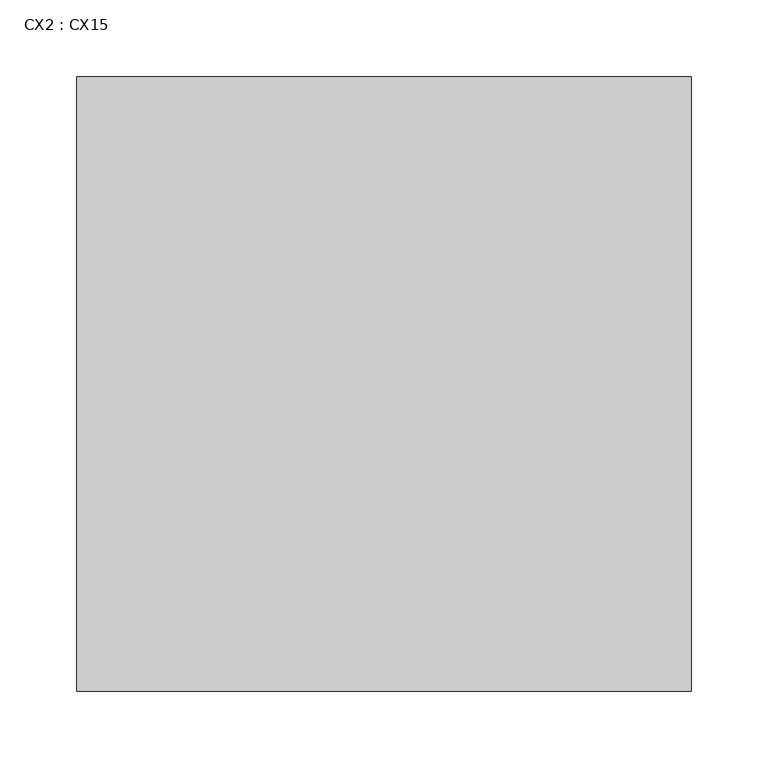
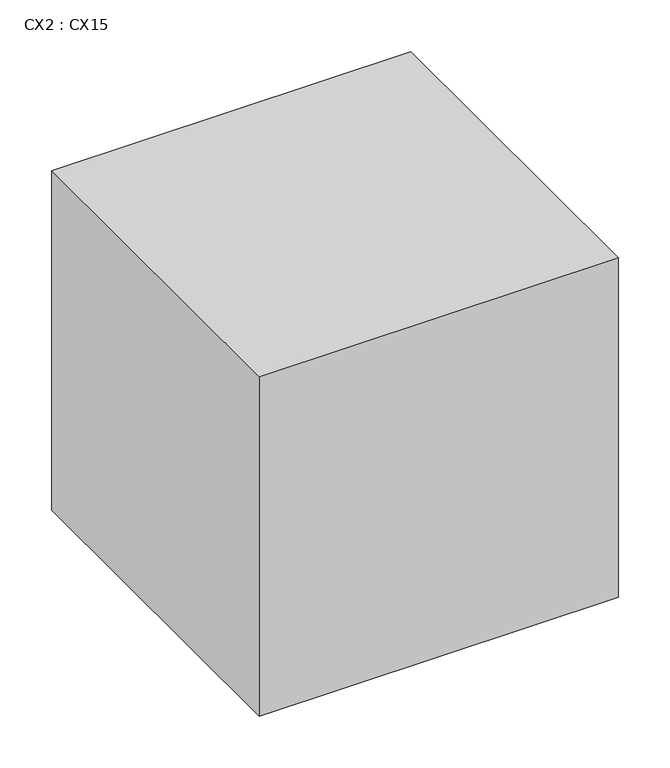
"""IFC4 building model written with IfcOpenShell, lengths in millimetres: proxy geometry, CX2 : CX15."""

from ifc_helpers import new_model, si_unit, frame, origin, place, context, project, spatial, polyline, outline, extrude, source, transform, mapped, element, save


def cx2_cx15_7de8fd89(model_context):
    return source(origin(), model_context, "Body", "SweptSolid", [
        extrude(outline(polyline([(21817.1746511, 5100.6121745), (22217.1746511, 5100.6121745), (22217.1746511, 4700.6121745), (21817.1746511, 4700.6121745), (21817.1746511, 5100.6121745)])), frame((0.0, 0.0, 1130.0), z_axis=(0.0, 0.0, 1.0), x_axis=(1.0, 0.0, 0.0)), (0.0, 0.0, 1.0), 400.0),
    ])


if __name__ == "__main__":
    model = new_model("IFC4")
    model_context = context("Model", 3, world=origin())
    ifc_project = project(units=[si_unit("LENGTHUNIT", "METRE", prefix="MILLI")], contexts=[model_context])
    site = spatial("IfcSite", under=ifc_project)
    building = spatial("IfcBuilding", under=site)
    placement = place(None, origin())
    cx2_cx15_shape = cx2_cx15_7de8fd89(model_context)
    element("IfcBuildingElementProxy", 1, Name="CX2 : CX15", ObjectType="CX2 : CX15", at=placement, inside=building, context=model_context, shape_type="MappedRepresentation", body=[
        mapped(cx2_cx15_shape, transform((0.0, 0.0, 0.0), x_axis=(1.0, 0.0, 0.0), y_axis=(0.0, 1.0, 0.0), z_axis=(0.0, 0.0, 1.0))),
    ])
    save(model, "model.ifc")
